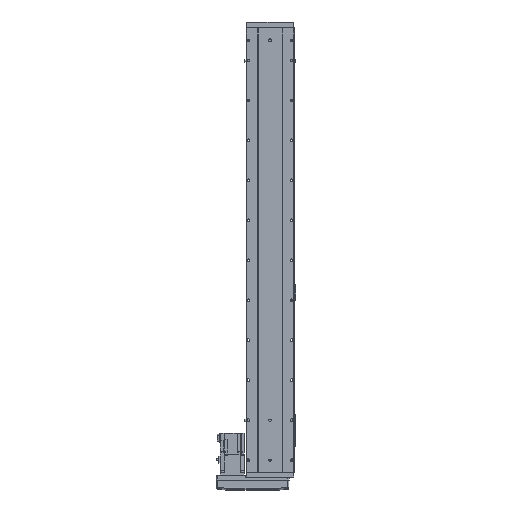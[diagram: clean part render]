
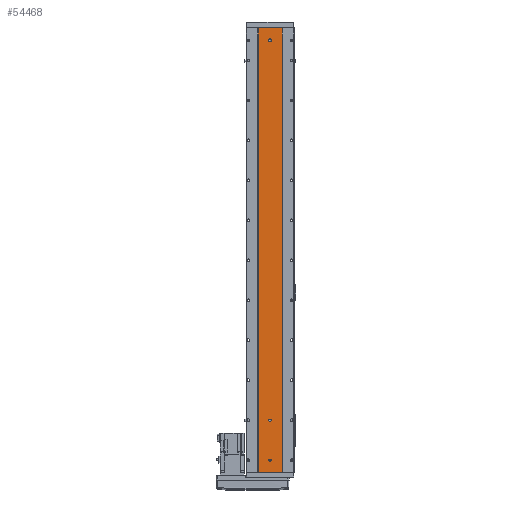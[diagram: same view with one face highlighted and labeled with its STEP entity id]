
A CAD part, front view. The second image highlights one B-rep face of the part: STEP entity #54468.
In plain terms, the highlighted planar face has unit normal (0, -1, 0).
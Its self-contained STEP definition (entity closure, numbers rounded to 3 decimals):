
#311 = DIRECTION ( 'NONE',  ( 0., 0., -1. ) ) ;
#602 = VERTEX_POINT ( 'NONE', #24852 ) ;
#1232 = LINE ( 'NONE', #48882, #10950 ) ;
#1440 = EDGE_CURVE ( 'NONE', #16119, #35190, #1232, .T. ) ;
#1679 = CARTESIAN_POINT ( 'NONE',  ( -3., 1., 1079. ) ) ;
#1785 = ORIENTED_EDGE ( 'NONE', *, *, #19251, .F. ) ;
#1833 = EDGE_CURVE ( 'NONE', #49564, #21909, #12383, .T. ) ;
#1854 = LINE ( 'NONE', #1679, #54655 ) ;
#2099 = AXIS2_PLACEMENT_3D ( 'NONE', #39445, #43609, #10927 ) ;
#3551 = EDGE_CURVE ( 'NONE', #602, #58900, #1854, .T. ) ;
#3792 = VECTOR ( 'NONE', #55964, 1000. ) ;
#5739 = LINE ( 'NONE', #26042, #45249 ) ;
#5744 = CARTESIAN_POINT ( 'NONE',  ( -30., 1., 1111. ) ) ;
#7242 = DIRECTION ( 'NONE',  ( 0., 0., -1. ) ) ;
#9785 = EDGE_CURVE ( 'NONE', #48389, #40290, #54452, .T. ) ;
#10927 = DIRECTION ( 'NONE',  ( 0., 0., -1. ) ) ;
#10950 = VECTOR ( 'NONE', #34347, 1000. ) ;
#12146 = VECTOR ( 'NONE', #51460, 1000. ) ;
#12383 = CIRCLE ( 'NONE', #58071, 3. ) ;
#12425 = CARTESIAN_POINT ( 'NONE',  ( 30., 1., 0. ) ) ;
#12431 = VERTEX_POINT ( 'NONE', #26385 ) ;
#12621 = CARTESIAN_POINT ( 'NONE',  ( 0., 1., 33. ) ) ;
#13656 = VERTEX_POINT ( 'NONE', #50557 ) ;
#13884 = DIRECTION ( 'NONE',  ( 0., 0., -1. ) ) ;
#15250 = DIRECTION ( 'NONE',  ( 0., -1., 0. ) ) ;
#15553 = PLANE ( 'NONE',  #42238 ) ;
#16066 = EDGE_LOOP ( 'NONE', ( #18887, #56464, #18857, #36315 ) ) ;
#16119 = VERTEX_POINT ( 'NONE', #23066 ) ;
#16851 = DIRECTION ( 'NONE',  ( 1., 0., 0. ) ) ;
#17251 = CARTESIAN_POINT ( 'NONE',  ( 0., 1., 130. ) ) ;
#18569 = ORIENTED_EDGE ( 'NONE', *, *, #28900, .F. ) ;
#18857 = ORIENTED_EDGE ( 'NONE', *, *, #44405, .F. ) ;
#18887 = ORIENTED_EDGE ( 'NONE', *, *, #1440, .T. ) ;
#19251 = EDGE_CURVE ( 'NONE', #21909, #49564, #57020, .T. ) ;
#20298 = FACE_OUTER_BOUND ( 'NONE', #16066, .T. ) ;
#20884 = DIRECTION ( 'NONE',  ( 0., -1., 0. ) ) ;
#21909 = VERTEX_POINT ( 'NONE', #12621 ) ;
#22856 = CIRCLE ( 'NONE', #51482, 3. ) ;
#23066 = CARTESIAN_POINT ( 'NONE',  ( -30., 1., 0. ) ) ;
#23219 = CARTESIAN_POINT ( 'NONE',  ( 0., 1., 1076. ) ) ;
#24852 = CARTESIAN_POINT ( 'NONE',  ( -3., 1., 1081. ) ) ;
#24955 = CARTESIAN_POINT ( 'NONE',  ( 0., 1., 127. ) ) ;
#25286 = EDGE_CURVE ( 'NONE', #36494, #49536, #28327, .T. ) ;
#25970 = CARTESIAN_POINT ( 'NONE',  ( 0., 1., 27. ) ) ;
#25999 = ORIENTED_EDGE ( 'NONE', *, *, #60556, .F. ) ;
#26042 = CARTESIAN_POINT ( 'NONE',  ( -30., 1., 1111. ) ) ;
#26385 = CARTESIAN_POINT ( 'NONE',  ( 30., 1., 1111. ) ) ;
#26387 = EDGE_CURVE ( 'NONE', #40290, #13656, #44911, .T. ) ;
#26720 = CARTESIAN_POINT ( 'NONE',  ( 0., 1., 30. ) ) ;
#26961 = LINE ( 'NONE', #31918, #3792 ) ;
#27621 = ORIENTED_EDGE ( 'NONE', *, *, #25286, .F. ) ;
#28057 = CARTESIAN_POINT ( 'NONE',  ( 0., 1., 130. ) ) ;
#28203 = AXIS2_PLACEMENT_3D ( 'NONE', #49398, #20884, #54327 ) ;
#28251 = DIRECTION ( 'NONE',  ( 0., -1., 0. ) ) ;
#28327 = CIRCLE ( 'NONE', #61367, 3. ) ;
#28900 = EDGE_CURVE ( 'NONE', #13656, #602, #30753, .T. ) ;
#29241 = CARTESIAN_POINT ( 'NONE',  ( 0., 1., 1079. ) ) ;
#30112 = EDGE_LOOP ( 'NONE', ( #35832, #44128, #50676, #50827, #18569 ) ) ;
#30364 = VERTEX_POINT ( 'NONE', #52373 ) ;
#30753 = CIRCLE ( 'NONE', #2099, 3. ) ;
#31248 = EDGE_LOOP ( 'NONE', ( #27621, #25999 ) ) ;
#31918 = CARTESIAN_POINT ( 'NONE',  ( 30., 1., 1111. ) ) ;
#34324 = EDGE_CURVE ( 'NONE', #58900, #48389, #43429, .T. ) ;
#34347 = DIRECTION ( 'NONE',  ( 1., 0., 0. ) ) ;
#34514 = DIRECTION ( 'NONE',  ( 0., 1., 0. ) ) ;
#34707 = DIRECTION ( 'NONE',  ( 0., 0., 1. ) ) ;
#35010 = DIRECTION ( 'NONE',  ( 0., 0., -1. ) ) ;
#35190 = VERTEX_POINT ( 'NONE', #12425 ) ;
#35832 = ORIENTED_EDGE ( 'NONE', *, *, #26387, .F. ) ;
#36042 = CARTESIAN_POINT ( 'NONE',  ( -30., 1., 1111. ) ) ;
#36315 = ORIENTED_EDGE ( 'NONE', *, *, #58507, .T. ) ;
#36494 = VERTEX_POINT ( 'NONE', #24955 ) ;
#38551 = DIRECTION ( 'NONE',  ( 0., 0., -1. ) ) ;
#38571 = AXIS2_PLACEMENT_3D ( 'NONE', #29241, #15250, #38551 ) ;
#38846 = DIRECTION ( 'NONE',  ( 0., -1., 0. ) ) ;
#39445 = CARTESIAN_POINT ( 'NONE',  ( 0., 1., 1081. ) ) ;
#40290 = VERTEX_POINT ( 'NONE', #51892 ) ;
#41163 = FACE_BOUND ( 'NONE', #31248, .T. ) ;
#41430 = DIRECTION ( 'NONE',  ( 0., 0., -1. ) ) ;
#42238 = AXIS2_PLACEMENT_3D ( 'NONE', #5744, #34514, #34707 ) ;
#43429 = CIRCLE ( 'NONE', #38571, 3. ) ;
#43609 = DIRECTION ( 'NONE',  ( 0., -1., 0. ) ) ;
#44128 = ORIENTED_EDGE ( 'NONE', *, *, #9785, .F. ) ;
#44405 = EDGE_CURVE ( 'NONE', #30364, #12431, #5739, .T. ) ;
#44911 = LINE ( 'NONE', #61607, #12146 ) ;
#45082 = CARTESIAN_POINT ( 'NONE',  ( 0., 1., 133. ) ) ;
#45249 = VECTOR ( 'NONE', #16851, 1000. ) ;
#45647 = DIRECTION ( 'NONE',  ( 0., 0., -1. ) ) ;
#45806 = LINE ( 'NONE', #36042, #47164 ) ;
#47107 = FACE_BOUND ( 'NONE', #53688, .T. ) ;
#47164 = VECTOR ( 'NONE', #41430, 1000. ) ;
#47820 = FACE_BOUND ( 'NONE', #30112, .T. ) ;
#48389 = VERTEX_POINT ( 'NONE', #23219 ) ;
#48602 = CARTESIAN_POINT ( 'NONE',  ( 0., 1., 30. ) ) ;
#48882 = CARTESIAN_POINT ( 'NONE',  ( -30., 1., 0. ) ) ;
#49398 = CARTESIAN_POINT ( 'NONE',  ( 0., 1., 1079. ) ) ;
#49536 = VERTEX_POINT ( 'NONE', #45082 ) ;
#49564 = VERTEX_POINT ( 'NONE', #25970 ) ;
#50501 = DIRECTION ( 'NONE',  ( 0., -1., 0. ) ) ;
#50557 = CARTESIAN_POINT ( 'NONE',  ( 3., 1., 1081. ) ) ;
#50594 = DIRECTION ( 'NONE',  ( 0., -1., 0. ) ) ;
#50676 = ORIENTED_EDGE ( 'NONE', *, *, #34324, .F. ) ;
#50827 = ORIENTED_EDGE ( 'NONE', *, *, #3551, .F. ) ;
#51460 = DIRECTION ( 'NONE',  ( 0., 0., 1. ) ) ;
#51482 = AXIS2_PLACEMENT_3D ( 'NONE', #17251, #50501, #7242 ) ;
#51892 = CARTESIAN_POINT ( 'NONE',  ( 3., 1., 1079. ) ) ;
#52373 = CARTESIAN_POINT ( 'NONE',  ( -30., 1., 1111. ) ) ;
#53688 = EDGE_LOOP ( 'NONE', ( #55877, #1785 ) ) ;
#54327 = DIRECTION ( 'NONE',  ( 0., 0., -1. ) ) ;
#54331 = CARTESIAN_POINT ( 'NONE',  ( -3., 1., 1079. ) ) ;
#54452 = CIRCLE ( 'NONE', #28203, 3. ) ;
#54468 = ADVANCED_FACE ( 'NONE', ( #47820, #41163, #47107, #20298 ), #15553, .F. ) ;
#54655 = VECTOR ( 'NONE', #35010, 1000. ) ;
#55287 = EDGE_CURVE ( 'NONE', #12431, #35190, #26961, .T. ) ;
#55877 = ORIENTED_EDGE ( 'NONE', *, *, #1833, .F. ) ;
#55964 = DIRECTION ( 'NONE',  ( 0., 0., -1. ) ) ;
#56464 = ORIENTED_EDGE ( 'NONE', *, *, #55287, .F. ) ;
#57020 = CIRCLE ( 'NONE', #57065, 3. ) ;
#57065 = AXIS2_PLACEMENT_3D ( 'NONE', #26720, #50594, #45647 ) ;
#58071 = AXIS2_PLACEMENT_3D ( 'NONE', #48602, #38846, #311 ) ;
#58507 = EDGE_CURVE ( 'NONE', #30364, #16119, #45806, .T. ) ;
#58900 = VERTEX_POINT ( 'NONE', #54331 ) ;
#60556 = EDGE_CURVE ( 'NONE', #49536, #36494, #22856, .T. ) ;
#61367 = AXIS2_PLACEMENT_3D ( 'NONE', #28057, #28251, #13884 ) ;
#61607 = CARTESIAN_POINT ( 'NONE',  ( 3., 1., 1079. ) ) ;
